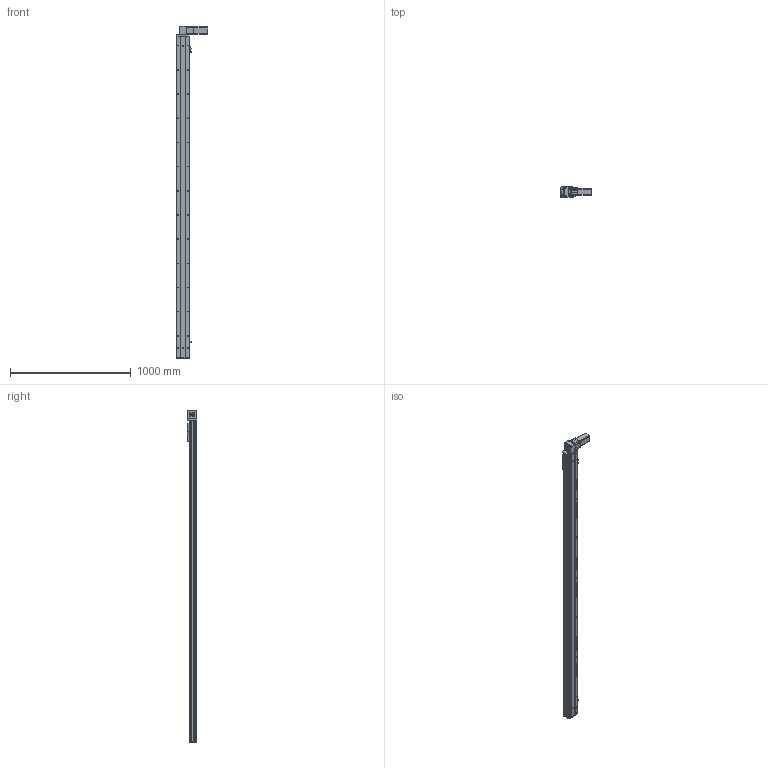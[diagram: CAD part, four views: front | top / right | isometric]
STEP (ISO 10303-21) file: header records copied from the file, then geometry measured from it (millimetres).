
FILE_DESCRIPTION (( 'STEP AP203' ), '1' );
FILE_NAME ('Y10CB-D90-S2400-BD-P400W.STEP', '2020-02-17T03:03:11', ( '微软用户' ), ( '微软中国' ), 'SwSTEP 2.0', 'SolidWorks 2017', '' );
FILE_SCHEMA (( 'CONFIG_CONTROL_DESIGN' ));
Length unit declared in the file: millimetre
Products named in the file (16): Y10B--々湍喘謫眊--666; 0B-埴倛裔啣; 0B-薊粣ん眊; 10CB-詩湍-; Y10CB-D90-S2400-BD-P400W; Y10CB- 掛极耜裔啣-毀---; Y10C---詩湍揤啣; 0CB-雄赽釱---; 10CB9-掛极; 0Cb-俋欶---; 10CB-耜裔; Y10B-々湍喘謫眊楊擘啣--; Y135C-陔俋离換覜結え-; san松下电机400不带刹车----; Y100-135俋离換覜ん--; 0B-源倛裔啣
Assembly tree (19 placements, depth 2):
  Y10CB-D90-S2400-BD-P400W
    0CB-雄赽釱---
    0Cb-俋欶---
    Y10B-々湍喘謫眊楊擘啣--
    san松下电机400不带刹车----
    0B-源倛裔啣
    0B-埴倛裔啣
    10CB-詩湍-
    Y10CB- 掛极耜裔啣-毀---  x2
    Y10C---詩湍揤啣  x2
    10CB9-掛极
    10CB-耜裔
    Y135C-陔俋离換覜結え-
    Y100-135俋离換覜ん--  x3
    Y10B--々湍喘謫眊--666
    0B-薊粣ん眊
Bounding box: 258 x 80.5 x 2746 mm (x, y, z)
Volume: 5579177.9 mm3; surface area: 2600375.4 mm2
Topology: 19 solids, 19 shells, 984 faces, 2662 edges, 1724 vertices
Faces by surface type: cylinder 510, plane 450, cone 24
Entity records: 31069 total; most frequent: CARTESIAN_POINT 5940, DIRECTION 4933, ORIENTED_EDGE 4794, EDGE_CURVE 2397, AXIS2_PLACEMENT_3D 1767, VERTEX_POINT 1550, LINE 1399, VECTOR 1399
